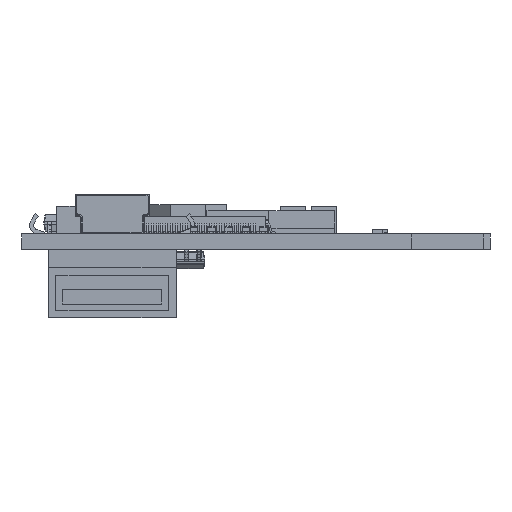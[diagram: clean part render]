
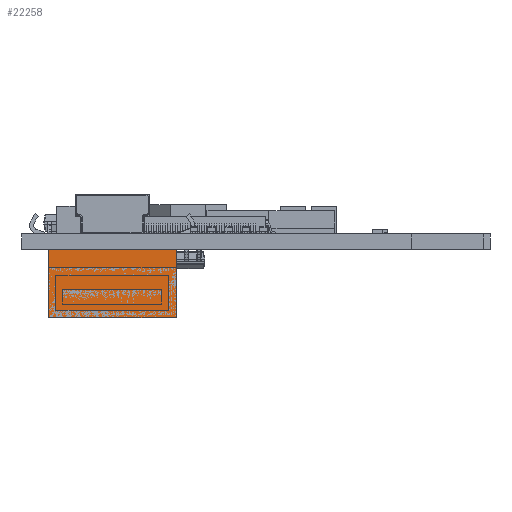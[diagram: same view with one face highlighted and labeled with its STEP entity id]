
A CAD part, left-side view. The second image highlights one B-rep face of the part: STEP entity #22258.
In plain terms, the highlighted planar face has unit normal (-1, 0, 0) as drawn and (0, 0, 1) by its records, which use the part's own axes.
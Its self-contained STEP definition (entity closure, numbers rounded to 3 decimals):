
#9860 = CARTESIAN_POINT ( 'NONE',  ( 6.55, 0., 7. ) ) ;
#11477 = ORIENTED_EDGE ( 'NONE', *, *, #17185, .T. ) ;
#15327 = ORIENTED_EDGE ( 'NONE', *, *, #31034, .T. ) ;
#17185 = EDGE_CURVE ( 'NONE', #34576, #31286, #18147, .T. ) ;
#18147 = LINE ( 'NONE', #79101, #25078 ) ;
#22258 = ADVANCED_FACE ( 'NONE', ( #133554 ), #23251, .T. ) ;
#23251 = PLANE ( 'NONE',  #88176 ) ;
#25078 = VECTOR ( 'NONE', #78640, 1000. ) ;
#31034 = EDGE_CURVE ( 'NONE', #99219, #53278, #41530, .T. ) ;
#31036 = VECTOR ( 'NONE', #122066, 1000. ) ;
#31286 = VERTEX_POINT ( 'NONE', #9860 ) ;
#32130 = DIRECTION ( 'NONE',  ( -1., 0., 0. ) ) ;
#34576 = VERTEX_POINT ( 'NONE', #140732 ) ;
#36789 = ORIENTED_EDGE ( 'NONE', *, *, #52019, .T. ) ;
#41530 = LINE ( 'NONE', #135077, #63985 ) ;
#45538 = DIRECTION ( 'NONE',  ( 1., 0., 0. ) ) ;
#47214 = DIRECTION ( 'NONE',  ( 0., -1., 0. ) ) ;
#48171 = ORIENTED_EDGE ( 'NONE', *, *, #68917, .T. ) ;
#49057 = VECTOR ( 'NONE', #47214, 1000. ) ;
#52019 = EDGE_CURVE ( 'NONE', #31286, #99219, #132655, .T. ) ;
#53272 = EDGE_LOOP ( 'NONE', ( #48171, #11477, #36789, #15327 ) ) ;
#53278 = VERTEX_POINT ( 'NONE', #133083 ) ;
#55948 = LINE ( 'NONE', #114932, #49057 ) ;
#56146 = DIRECTION ( 'NONE',  ( 0., 0., 1. ) ) ;
#63985 = VECTOR ( 'NONE', #32130, 1000. ) ;
#65868 = CARTESIAN_POINT ( 'NONE',  ( 6.55, 7.01, 7. ) ) ;
#68917 = EDGE_CURVE ( 'NONE', #53278, #34576, #55948, .T. ) ;
#78640 = DIRECTION ( 'NONE',  ( 1., 0., 0. ) ) ;
#79101 = CARTESIAN_POINT ( 'NONE',  ( -6.55, 0., 7. ) ) ;
#88176 = AXIS2_PLACEMENT_3D ( 'NONE', #99909, #56146, #45538 ) ;
#99219 = VERTEX_POINT ( 'NONE', #102538 ) ;
#99909 = CARTESIAN_POINT ( 'NONE',  ( -6.55, 0., 7. ) ) ;
#102538 = CARTESIAN_POINT ( 'NONE',  ( 6.55, 7.01, 7. ) ) ;
#114932 = CARTESIAN_POINT ( 'NONE',  ( -6.55, 7.01, 7. ) ) ;
#122066 = DIRECTION ( 'NONE',  ( 0., 1., 0. ) ) ;
#132655 = LINE ( 'NONE', #65868, #31036 ) ;
#133083 = CARTESIAN_POINT ( 'NONE',  ( -6.55, 7.01, 7. ) ) ;
#133554 = FACE_OUTER_BOUND ( 'NONE', #53272, .T. ) ;
#135077 = CARTESIAN_POINT ( 'NONE',  ( -6.55, 7.01, 7. ) ) ;
#140732 = CARTESIAN_POINT ( 'NONE',  ( -6.55, 0., 7. ) ) ;
